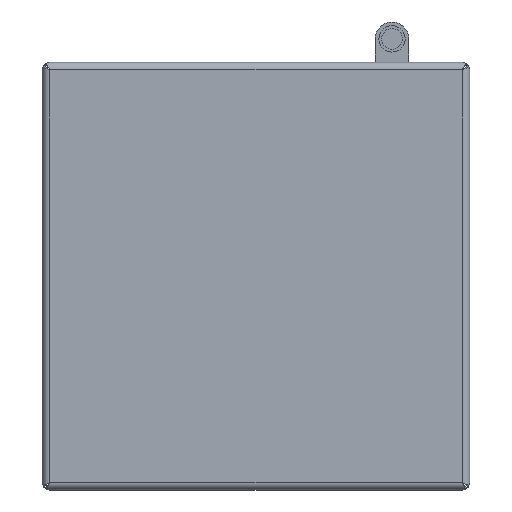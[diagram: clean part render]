
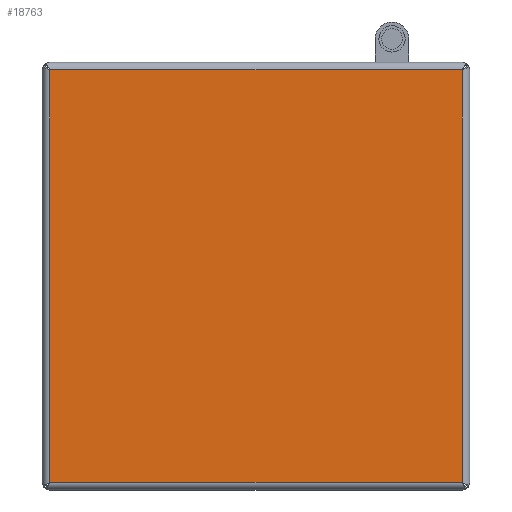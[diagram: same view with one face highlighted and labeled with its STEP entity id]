
A CAD part, front view. The second image highlights one B-rep face of the part: STEP entity #18763.
In plain terms, the highlighted planar face has unit normal (0, -1, 0).
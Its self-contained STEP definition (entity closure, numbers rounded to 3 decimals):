
#860=DIRECTION('',(0.,0.,1.));
#861=VECTOR('',#860,219.9);
#862=CARTESIAN_POINT('',(109.95,-55.2,-109.95));
#863=LINE('',#862,#861);
#891=DIRECTION('',(-1.,0.,0.));
#892=VECTOR('',#891,219.9);
#893=CARTESIAN_POINT('',(109.95,-55.2,109.95));
#894=LINE('',#893,#892);
#928=CARTESIAN_POINT('',(-109.95,-55.2,-109.95));
#930=DIRECTION('',(1.,0.,0.));
#931=VECTOR('',#930,219.9);
#932=CARTESIAN_POINT('',(-109.95,-55.2,-109.95));
#933=LINE('',#932,#931);
#934=CARTESIAN_POINT('',(109.95,-55.2,-109.95));
#1134=DIRECTION('',(0.,0.,-1.));
#1135=VECTOR('',#1134,219.9);
#1136=CARTESIAN_POINT('',(-109.95,-55.2,109.95));
#1137=LINE('',#1136,#1135);
#14307=VERTEX_POINT('',#928);
#14311=VERTEX_POINT('',#934);
#14312=CARTESIAN_POINT('',(109.95,-55.2,109.95));
#14313=CARTESIAN_POINT('',(-109.95,-55.2,109.95));
#14314=VERTEX_POINT('',#14312);
#14315=VERTEX_POINT('',#14313);
#18749=CARTESIAN_POINT('',(0.,-55.2,0.));
#18750=DIRECTION('',(0.,1.,0.));
#18751=DIRECTION('',(0.,0.,1.));
#18752=AXIS2_PLACEMENT_3D('',#18749,#18750,#18751);
#18753=PLANE('',#18752);
#18755=ORIENTED_EDGE('',*,*,#18754,.F.);
#18756=ORIENTED_EDGE('',*,*,#18717,.F.);
#18758=ORIENTED_EDGE('',*,*,#18757,.F.);
#18760=ORIENTED_EDGE('',*,*,#18759,.F.);
#18761=EDGE_LOOP('',(#18755,#18756,#18758,#18760));
#18762=FACE_OUTER_BOUND('',#18761,.F.);
#18763=ADVANCED_FACE('',(#18762),#18753,.F.);
#18717=EDGE_CURVE('',#14311,#14314,#863,.T.);
#18754=EDGE_CURVE('',#14314,#14315,#894,.T.);
#18757=EDGE_CURVE('',#14307,#14311,#933,.T.);
#18759=EDGE_CURVE('',#14315,#14307,#1137,.T.);
